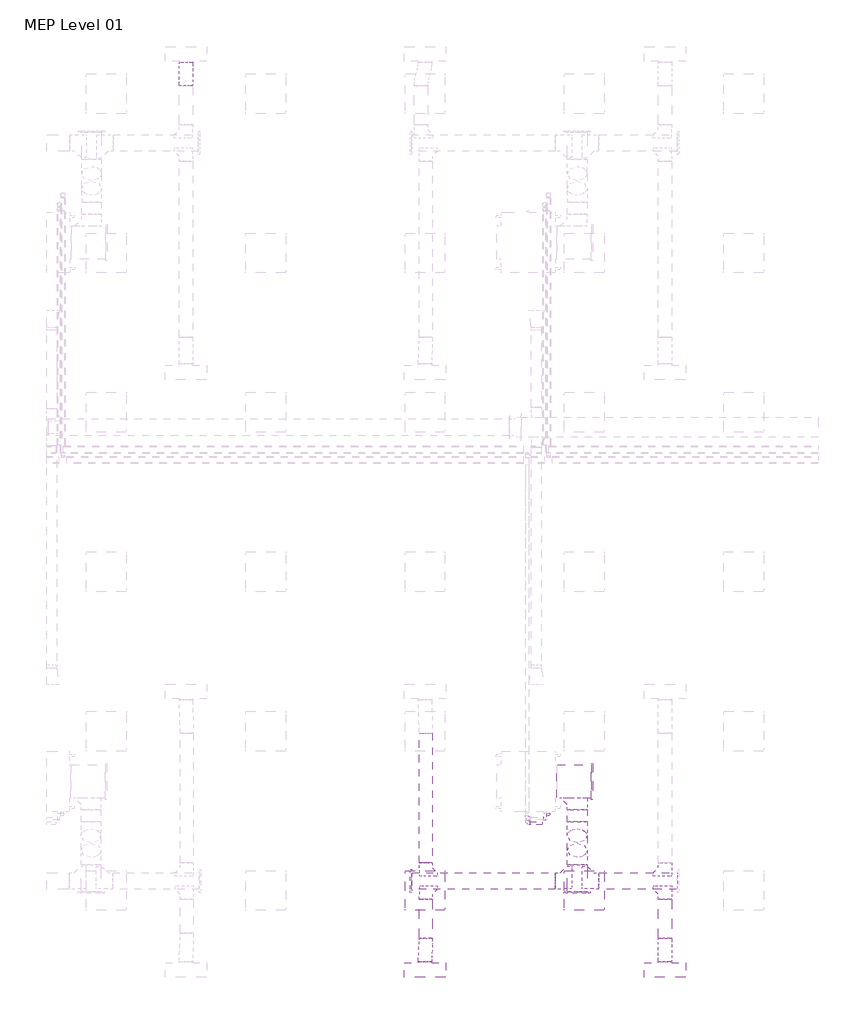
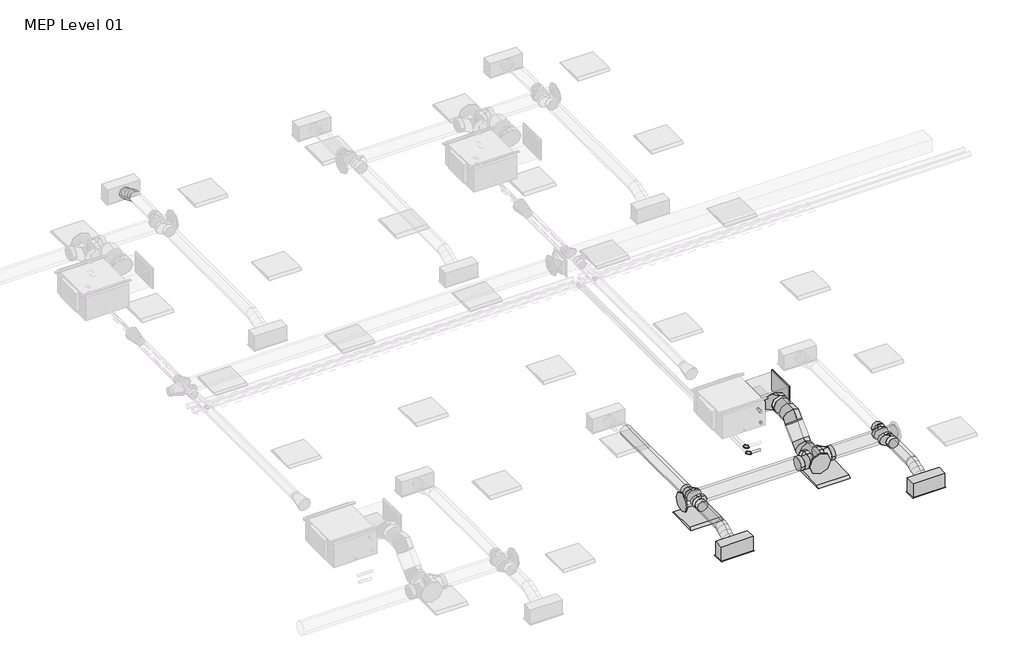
# One storey, part 6 of 29: 12 duct fittings, 12 duct segments, 3 pipe segments, 2 air terminals, 2 light fixtures, 2 pipe fittings.
"""IFC4 building model written with IfcOpenShell, lengths in millimetres."""

from ifc_helpers import new_model, si_unit, point, frame, frame_2d, origin, place, context, project, spatial, polyline, circle_curve, ellipse_curve, trimmed, segment, composite_curve, outline, extrude, transform, mapped, element, save
from ifc_brep_helpers import plane_surface, cylinder_surface, advanced_brep
from components import supply_diffuser_with_plenum_linear_slot_hosted_8c379eed, dw144_rectangular_blank_end_standard_8fde7d16, dw144_round_blank_end_standard_f82b0856, dw144_round_blank_end_standard_9aa061e7, dw144_round_segmented_bend_slip_joint_standard_8b80c5ae, dw144_round_shoe_branch_slip_joint_standard_15a2edd8, dw144_round_shoe_branch_slip_joint_standard_559552f4, dw144_round_shoe_branch_slip_joint_standard_7ba9e4ed, dw144_round_shoe_branch_slip_joint_standard_67b64720, light_fixture_600x600_230_1c7c1157, elbow_threaded_gmi_standard_b4aa7741

model = new_model("IFC4")

# Units and contexts
model_context = context("Model", 3, world=origin())
ifc_project = project(units=[si_unit("LENGTHUNIT", "METRE", prefix="MILLI")], contexts=[model_context])

# Site, building, storey
site = spatial("IfcSite", under=ifc_project)
building = spatial("IfcBuilding", under=site)
storey = spatial("IfcBuildingStorey", under=building, Name="MEP Level 01", Elevation=3900.0)

# Air terminals
placement = place(None, origin())
supply_diffuser_with_plenum_linear_slot_hosted_shape = supply_diffuser_with_plenum_linear_slot_hosted_8c379eed(model_context)
element("IfcAirTerminal", 1, ObjectType="Supply Diffuser with Plenum - Linear Slot - Hosted : 600mmx193.8mm-200 In Inlet  4-Slot", at=placement, inside=storey, context=model_context, shape_type="MappedRepresentation", body=[
    mapped(supply_diffuser_with_plenum_linear_slot_hosted_shape, transform((16362.2000027, 963.2000004, 6700.0), x_axis=(1.0, 0.0, 0.0), y_axis=(0.0, -1.0, 0.0), z_axis=(0.0, 0.0, -1.0))),
])
element("IfcAirTerminal", 2, ObjectType="Supply Diffuser with Plenum - Linear Slot - Hosted : 600mmx193.8mm-200 In Inlet  4-Slot", at=placement, inside=storey, context=model_context, shape_type="MappedRepresentation", body=[
    mapped(supply_diffuser_with_plenum_linear_slot_hosted_shape, transform((19973.9000022, 963.2000004, 6700.0), x_axis=(1.0, 0.0, 0.0), y_axis=(0.0, -1.0, 0.0), z_axis=(0.0, 0.0, -1.0))),
])

# Duct fittings
dw144_rectangular_blank_end_standard_shape = dw144_rectangular_blank_end_standard_8fde7d16(model_context)
element("IfcDuctFitting", 3, ObjectType="DW144 Rectangular Blank End : Standard", at=placement, inside=storey, context=model_context, shape_type="MappedRepresentation", body=[
    mapped(dw144_rectangular_blank_end_standard_shape, transform((18866.2561025, 3806.0000004, 7376.3911538), x_axis=(1.0, 0.0, 0.0), y_axis=(0.0, 1.0, 0.0), z_axis=(0.0, 0.0, 1.0))),
])
dw144_round_blank_end_standard_shape = dw144_round_blank_end_standard_f82b0856(model_context)
element("IfcDuctFitting", 4, ObjectType="DW144 Round Blank End : Standard", at=placement, inside=storey, context=model_context, shape_type="MappedRepresentation", body=[
    mapped(dw144_round_blank_end_standard_shape, transform((18651.4561025, 2142.9916128, 6972.2088531), x_axis=(0.0, -1.0, 0.0), y_axis=(1.0, 0.0, 0.0), z_axis=(0.0, 0.0, 1.0))),
])
dw144_round_blank_end_standard_2_shape = dw144_round_blank_end_standard_9aa061e7(model_context)
element("IfcDuctFitting", 5, ObjectType="DW144 Round Blank End : Standard", at=placement, inside=storey, context=model_context, shape_type="MappedRepresentation", body=[
    mapped(dw144_round_blank_end_standard_2_shape, transform((16161.4561025, 2306.5018192, 6972.2088531), x_axis=(-1.0, 0.0, 0.0), y_axis=(0.0, -1.0, 0.0), z_axis=(0.0, 0.0, 1.0))),
])
dw144_round_segmented_bend_slip_joint_standard_shape = dw144_round_segmented_bend_slip_joint_standard_8b80c5ae(model_context)
element("IfcDuctFitting", 6, ObjectType="DW144 Round Segmented Bend - Slip Joint : Standard", at=placement, inside=storey, context=model_context, shape_type="MappedRepresentation", body=[
    mapped(dw144_round_segmented_bend_slip_joint_standard_shape, transform((18651.4561025, 2678.6338536, 6972.2088531), x_axis=(0.0, -0.7071067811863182, -0.7071067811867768), y_axis=(0.0, 0.7071067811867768, -0.7071067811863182), z_axis=(1.0, 0.0, 0.0))),
])
element("IfcDuctFitting", 7, ObjectType="DW144 Round Segmented Bend - Slip Joint : Standard", at=placement, inside=storey, context=model_context, shape_type="MappedRepresentation", body=[
    mapped(dw144_round_segmented_bend_slip_joint_standard_shape, transform((18651.4561025, 3076.0000004, 7369.575), x_axis=(0.0, -1.0, 0.0), y_axis=(0.0, 0.0, 1.0), z_axis=(-1.0, 0.0, 0.0))),
])
dw144_round_shoe_branch_slip_joint_standard_shape = dw144_round_shoe_branch_slip_joint_standard_15a2edd8(model_context)
element("IfcDuctFitting", 8, ObjectType="DW144 Round Shoe Branch - Slip Joint : Standard", at=placement, inside=storey, context=model_context, shape_type="MappedRepresentation", body=[
    mapped(dw144_round_shoe_branch_slip_joint_standard_shape, transform((16373.9000022, 2181.5018192, 6972.2088531), x_axis=(0.0, -1.0, 0.0), y_axis=(-1.0, 0.0, 0.0), z_axis=(0.0, 0.0, -1.0))),
])
element("IfcDuctFitting", 9, ObjectType="DW144 Round Shoe Branch - Slip Joint : Standard", at=placement, inside=storey, context=model_context, shape_type="MappedRepresentation", body=[
    mapped(dw144_round_shoe_branch_slip_joint_standard_shape, transform((16373.9000022, 2431.5018192, 6972.2088531), x_axis=(0.0, 1.0, 0.0), y_axis=(-1.0, 0.0, 0.0), z_axis=(0.0, 0.0, 1.0))),
])
dw144_round_shoe_branch_slip_joint_standard_2_shape = dw144_round_shoe_branch_slip_joint_standard_559552f4(model_context)
element("IfcDuctFitting", 10, ObjectType="DW144 Round Shoe Branch - Slip Joint : Standard", at=placement, inside=storey, context=model_context, shape_type="MappedRepresentation", body=[
    mapped(dw144_round_shoe_branch_slip_joint_standard_2_shape, transform((19973.9000022, 2181.5018192, 6972.2088531), x_axis=(0.0, -1.0, 0.0), y_axis=(-1.0, 0.0, 0.0), z_axis=(0.0, 0.0, -1.0))),
])
element("IfcDuctFitting", 11, ObjectType="DW144 Round Shoe Branch - Slip Joint : Standard", at=placement, inside=storey, context=model_context, shape_type="MappedRepresentation", body=[
    mapped(dw144_round_shoe_branch_slip_joint_standard_2_shape, transform((19973.9000022, 2431.5018192, 6972.2088531), x_axis=(0.0, 1.0, 0.0), y_axis=(-1.0, 0.0, 0.0), z_axis=(0.0, 0.0, 1.0))),
])
dw144_round_shoe_branch_slip_joint_standard_3_shape = dw144_round_shoe_branch_slip_joint_standard_7ba9e4ed(model_context)
element("IfcDuctFitting", 12, ObjectType="DW144 Round Shoe Branch - Slip Joint : Standard", at=placement, inside=storey, context=model_context, shape_type="MappedRepresentation", body=[
    mapped(dw144_round_shoe_branch_slip_joint_standard_3_shape, transform((18651.4561025, 3556.0000004, 7369.575), x_axis=(0.0, -1.0, 0.0), y_axis=(-1.0, 0.0, 0.0), z_axis=(0.0, 0.0, -1.0))),
])
dw144_round_shoe_branch_slip_joint_standard_4_shape = dw144_round_shoe_branch_slip_joint_standard_67b64720(model_context)
element("IfcDuctFitting", 13, ObjectType="DW144 Round Shoe Branch - Slip Joint : Standard", at=placement, inside=storey, context=model_context, shape_type="MappedRepresentation", body=[
    mapped(dw144_round_shoe_branch_slip_joint_standard_4_shape, transform((18801.4561025, 2306.5018192, 6972.2088531), x_axis=(1.0, 0.0, 0.0), y_axis=(0.0, -1.0, 0.0), z_axis=(0.0, 0.0, -1.0))),
])
element("IfcDuctFitting", 14, ObjectType="DW144 Round Shoe Branch - Slip Joint : Standard", at=placement, inside=storey, context=model_context, shape_type="MappedRepresentation", body=[
    mapped(dw144_round_shoe_branch_slip_joint_standard_4_shape, transform((18501.4561025, 2306.5018192, 6972.2088531), x_axis=(-1.0, 0.0, 0.0), y_axis=(0.0, -1.0, 0.0), z_axis=(0.0, 0.0, 1.0))),
])

# Duct segments
element("IfcDuctSegment", 15, ObjectType="DW144 Flanged Med Radius Bend / Shoe Branch", at=placement, inside=storey, context=model_context, shape_type="SweptSolid", body=[
    extrude(outline(polyline([(18346.6561025, 3556.0000004), (18346.6561025, 4056.0000004), (18866.2561025, 4056.0000004), (18866.2561025, 3556.0000004), (18346.6561025, 3556.0000004)])), frame((0.0, 0.0, 7201.3911538), z_axis=(0.0, 0.0, 1.0), x_axis=(1.0, 0.0, 0.0)), (0.0, 0.0, 1.0), 350.0),
])
element("IfcDuctSegment", 16, ObjectType="DW144 Segmented Bend / Shoe Branch", at=placement, inside=storey, context=model_context, shape_type="SweptSolid", body=[
    extrude(outline(composite_curve([segment(trimmed(circle_curve(frame_2d((7369.575, 18651.4561025)), 150.0), [point((7369.575, 18501.4561025))], [point((7219.575, 18651.4561025))], False, "CARTESIAN"), True, "CONTINUOUS"), segment(trimmed(circle_curve(frame_2d((7369.575, 18651.4561025)), 150.0), [point((7219.575, 18651.4561025))], [point((7369.575, 18801.4561025))], False, "CARTESIAN"), True, "CONTINUOUS"), segment(trimmed(circle_curve(frame_2d((7369.575, 18651.4561025)), 150.0), [point((7369.575, 18801.4561025))], [point((7519.575, 18651.4561025))], False, "CARTESIAN"), True, "CONTINUOUS"), segment(trimmed(circle_curve(frame_2d((7369.575, 18651.4561025)), 150.0), [point((7519.575, 18651.4561025))], [point((7369.575, 18501.4561025))], False, "CARTESIAN"), True, "CONTINUOUS")], self_intersect=False)), frame((0.0, 3200.2640691, 0.0), z_axis=(0.0, 1.0, 0.0), x_axis=(0.0, 0.0, 1.0)), (0.0, 0.0, 1.0), 180.7359313),
])
element("IfcDuctSegment", 17, ObjectType="DW144 Segmented Bend / Shoe Branch", at=placement, inside=storey, context=model_context, shape_type="SweptSolid", body=[
    extrude(outline(composite_curve([segment(trimmed(circle_curve(frame_2d((6972.2088531, 18651.4561025)), 150.0), [point((6972.2088531, 18501.4561025))], [point((6822.2088531, 18651.4561025))], False, "CARTESIAN"), True, "CONTINUOUS"), segment(trimmed(circle_curve(frame_2d((6972.2088531, 18651.4561025)), 150.0), [point((6822.2088531, 18651.4561025))], [point((6972.2088531, 18801.4561025))], False, "CARTESIAN"), True, "CONTINUOUS"), segment(trimmed(circle_curve(frame_2d((6972.2088531, 18651.4561025)), 150.0), [point((6972.2088531, 18801.4561025))], [point((7122.2088531, 18651.4561025))], False, "CARTESIAN"), True, "CONTINUOUS"), segment(trimmed(circle_curve(frame_2d((6972.2088531, 18651.4561025)), 150.0), [point((7122.2088531, 18651.4561025))], [point((6972.2088531, 18501.4561025))], False, "CARTESIAN"), True, "CONTINUOUS")], self_intersect=False)), frame((0.0, 2142.9916128, 0.0), z_axis=(0.0, 1.0, 0.0), x_axis=(0.0, 0.0, 1.0)), (0.0, 0.0, 1.0), 411.3781721),
])
element("IfcDuctSegment", 18, ObjectType="DW144 Segmented Bend / Shoe Branch", at=placement, inside=storey, context=model_context, shape_type="SweptSolid", body=[
    extrude(outline(composite_curve([segment(trimmed(circle_curve(frame_2d((0.0, -150.0)), 150.0), [point((-150.0, -150.0))], [point((0.0, 0.0))], False, "CARTESIAN"), True, "CONTINUOUS"), segment(trimmed(circle_curve(frame_2d((0.0, -150.0)), 150.0), [point((0.0, 0.0))], [point((150.0, -150.0))], False, "CARTESIAN"), True, "CONTINUOUS"), segment(trimmed(circle_curve(frame_2d((0.0, -150.0)), 150.0), [point((150.0, -150.0))], [point((0.0, -300.0))], False, "CARTESIAN"), True, "CONTINUOUS"), segment(trimmed(circle_curve(frame_2d((0.0, -150.0)), 150.0), [point((0.0, -300.0))], [point((-150.0, -150.0))], False, "CARTESIAN"), True, "CONTINUOUS")], self_intersect=False)), frame((18651.4561025, 2872.5678364, 6954.0108016), z_axis=(0.0, 0.7071067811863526, 0.7071067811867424), x_axis=(1.0, 0.0, 0.0)), (0.0, 0.0, 1.0), 313.4324567),
])
element("IfcDuctSegment", 19, ObjectType="DW144 Segmented Bend / Shoe Branch", at=placement, inside=storey, context=model_context, shape_type="SweptSolid", body=[
    extrude(outline(composite_curve([segment(trimmed(circle_curve(frame_2d((2306.5018192, 6972.2088531)), 125.0), [point((2181.5018192, 6972.2088531))], [point((2306.5018192, 7097.2088531))], False, "CARTESIAN"), True, "CONTINUOUS"), segment(trimmed(circle_curve(frame_2d((2306.5018192, 6972.2088531)), 125.0), [point((2306.5018192, 7097.2088531))], [point((2431.5018192, 6972.2088531))], False, "CARTESIAN"), True, "CONTINUOUS"), segment(trimmed(circle_curve(frame_2d((2306.5018192, 6972.2088531)), 125.0), [point((2431.5018192, 6972.2088531))], [point((2306.5018192, 6847.2088531))], False, "CARTESIAN"), True, "CONTINUOUS"), segment(trimmed(circle_curve(frame_2d((2306.5018192, 6972.2088531)), 125.0), [point((2306.5018192, 6847.2088531))], [point((2181.5018192, 6972.2088531))], False, "CARTESIAN"), True, "CONTINUOUS")], self_intersect=False)), frame((18976.4561025, 0.0, 0.0), z_axis=(1.0, 0.0, 0.0), x_axis=(0.0, 1.0, 0.0)), (0.0, 0.0, 1.0), 1185.0),
])
element("IfcDuctSegment", 20, ObjectType="DW144 Segmented Bend / Shoe Branch", at=placement, inside=storey, context=model_context, shape_type="SweptSolid", body=[
    extrude(outline(composite_curve([segment(trimmed(circle_curve(frame_2d((2306.5018192, 6972.2088531)), 125.0), [point((2431.5018192, 6972.2088531))], [point((2306.5018192, 6847.2088531))], False, "CARTESIAN"), True, "CONTINUOUS"), segment(trimmed(circle_curve(frame_2d((2306.5018192, 6972.2088531)), 125.0), [point((2306.5018192, 6847.2088531))], [point((2181.5018192, 6972.2088531))], False, "CARTESIAN"), True, "CONTINUOUS"), segment(trimmed(circle_curve(frame_2d((2306.5018192, 6972.2088531)), 125.0), [point((2181.5018192, 6972.2088531))], [point((2306.5018192, 7097.2088531))], False, "CARTESIAN"), True, "CONTINUOUS"), segment(trimmed(circle_curve(frame_2d((2306.5018192, 6972.2088531)), 125.0), [point((2306.5018192, 7097.2088531))], [point((2431.5018192, 6972.2088531))], False, "CARTESIAN"), True, "CONTINUOUS")], self_intersect=False)), frame((16161.4561025, 0.0, 0.0), z_axis=(1.0, 0.0, 0.0), x_axis=(0.0, 1.0, 0.0)), (0.0, 0.0, 1.0), 2165.0),
])
element("IfcDuctSegment", 21, ObjectType="DW144 Segmented Bend / Shoe Branch", at=placement, inside=storey, context=model_context, shape_type="SweptSolid", body=[
    extrude(outline(composite_curve([segment(trimmed(circle_curve(frame_2d((6972.2088531, 19973.9000022)), 100.0), [point((6972.2088531, 19873.9000022))], [point((6872.2088531, 19973.9000022))], False, "CARTESIAN"), True, "CONTINUOUS"), segment(trimmed(circle_curve(frame_2d((6972.2088531, 19973.9000022)), 100.0), [point((6872.2088531, 19973.9000022))], [point((6972.2088531, 20073.9000022))], False, "CARTESIAN"), True, "CONTINUOUS"), segment(trimmed(circle_curve(frame_2d((6972.2088531, 19973.9000022)), 100.0), [point((6972.2088531, 20073.9000022))], [point((7072.2088531, 19973.9000022))], False, "CARTESIAN"), True, "CONTINUOUS"), segment(trimmed(circle_curve(frame_2d((6972.2088531, 19973.9000022)), 100.0), [point((7072.2088531, 19973.9000022))], [point((6972.2088531, 19873.9000022))], False, "CARTESIAN"), True, "CONTINUOUS")], self_intersect=False)), frame((0.0, 1441.5018192, 0.0), z_axis=(0.0, 1.0, 0.0), x_axis=(0.0, 0.0, 1.0)), (0.0, 0.0, 1.0), 590.0),
])
element("IfcDuctSegment", 22, ObjectType="DW144 Segmented Bend / Shoe Branch", at=placement, inside=storey, context=model_context, shape_type="SweptSolid", body=[
    extrude(outline(composite_curve([segment(trimmed(circle_curve(frame_2d((6972.2088531, 16373.9000022)), 100.0), [point((6972.2088531, 16473.9000022))], [point((7072.2088531, 16373.9000022))], False, "CARTESIAN"), True, "CONTINUOUS"), segment(trimmed(circle_curve(frame_2d((6972.2088531, 16373.9000022)), 100.0), [point((7072.2088531, 16373.9000022))], [point((6972.2088531, 16273.9000022))], False, "CARTESIAN"), True, "CONTINUOUS"), segment(trimmed(circle_curve(frame_2d((6972.2088531, 16373.9000022)), 100.0), [point((6972.2088531, 16273.9000022))], [point((6872.2088531, 16373.9000022))], False, "CARTESIAN"), True, "CONTINUOUS"), segment(trimmed(circle_curve(frame_2d((6972.2088531, 16373.9000022)), 100.0), [point((6872.2088531, 16373.9000022))], [point((6972.2088531, 16473.9000022))], False, "CARTESIAN"), True, "CONTINUOUS")], self_intersect=False)), frame((0.0, 1441.5018192, 0.0), z_axis=(0.0, 1.0, 0.0), x_axis=(0.0, 0.0, 1.0)), (0.0, 0.0, 1.0), 590.0),
])
element("IfcDuctSegment", 23, ObjectType="DW144 Segmented Bend / Shoe Branch", at=placement, inside=storey, context=model_context, shape_type="SweptSolid", body=[
    extrude(outline(composite_curve([segment(trimmed(circle_curve(frame_2d((6972.2088531, 16373.9000022)), 100.0), [point((6972.2088531, 16473.9000022))], [point((7072.2088531, 16373.9000022))], False, "CARTESIAN"), True, "CONTINUOUS"), segment(trimmed(circle_curve(frame_2d((6972.2088531, 16373.9000022)), 100.0), [point((7072.2088531, 16373.9000022))], [point((6972.2088531, 16273.9000022))], False, "CARTESIAN"), True, "CONTINUOUS"), segment(trimmed(circle_curve(frame_2d((6972.2088531, 16373.9000022)), 100.0), [point((6972.2088531, 16273.9000022))], [point((6872.2088531, 16373.9000022))], False, "CARTESIAN"), True, "CONTINUOUS"), segment(trimmed(circle_curve(frame_2d((6972.2088531, 16373.9000022)), 100.0), [point((6872.2088531, 16373.9000022))], [point((6972.2088531, 16473.9000022))], False, "CARTESIAN"), True, "CONTINUOUS")], self_intersect=False)), frame((0.0, 2581.5018192, 0.0), z_axis=(0.0, 1.0, 0.0), x_axis=(0.0, 0.0, 1.0)), (0.0, 0.0, 1.0), 1950.0),
])
element("IfcDuctSegment", 24, ObjectType="Flex - Round", at=placement, inside=storey, context=model_context, shape_type="AdvancedBrep", body=[
    advanced_brep(
    [(12662.2000027, 14284.8981817, 6972.2088531), (12762.2000027, 14284.8981817, 6872.2088531), (12862.2000027, 14284.8981817, 6972.2088531), (12762.2000027, 14284.8981817, 7072.2088531), (12662.2000027, 14305.1168804, 6972.2088531), (12762.2000027, 14291.9969011, 6872.2088531), (12862.2000027, 14305.1168804, 6972.2088531), (12762.2000027, 14318.2368598, 7072.2088531), (12662.2000027, 14634.3000004, 6854.4), (12762.2000027, 14634.3000004, 6954.4), (12862.2000027, 14634.3000004, 6854.4), (12762.2000027, 14634.3000004, 6754.4), (12662.2000027, 14374.0604937, 6953.8012198), (12762.2000027, 14339.4842635, 6859.5299419), (12862.2000027, 14374.0604937, 6953.8012198), (12762.2000027, 14408.6367238, 7048.0724978), (12662.2000027, 14459.599091, 6913.3044266), (12762.2000027, 14416.809003, 6822.9218599), (12862.2000027, 14459.599091, 6913.3044266), (12762.2000027, 14502.3891791, 7003.6869932), (12662.2000027, 14545.1376884, 6872.8076333), (12762.2000027, 14510.5614583, 6778.5363553), (12862.2000027, 14545.1376884, 6872.8076333), (12762.2000027, 14579.7139186, 6967.0789113), (12662.2000027, 14614.0813017, 6854.4), (12762.2000027, 14600.9613223, 6754.4), (12862.2000027, 14614.0813017, 6854.4), (12762.2000027, 14627.201281, 6954.4)],
    [
        (0, 1, circle_curve(frame((12762.2000027, 14284.8981817, 6972.2088531), z_axis=(0.0, -1.0, 0.0), x_axis=(-1.0, 0.0, 0.0)), 100.0)),
        (1, 2, circle_curve(frame((12762.2000027, 14284.8981817, 6972.2088531), z_axis=(0.0, -1.0, 0.0), x_axis=(-1.0, 0.0, 0.0)), 100.0)),
        (2, 3, circle_curve(frame((12762.2000027, 14284.8981817, 6972.2088531), z_axis=(0.0, -1.0, 0.0), x_axis=(-1.0, 0.0, 0.0)), 100.0)),
        (3, 0, circle_curve(frame((12762.2000027, 14284.8981817, 6972.2088531), z_axis=(0.0, -1.0, 0.0), x_axis=(-1.0, 0.0, 0.0)), 100.0)),
        (0, 4),
        (4, 5, ellipse_curve(frame((12762.2000027, 14305.1168804, 6972.2088531), z_axis=(0.0, -0.9915028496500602, 0.1300849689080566), x_axis=(0.0, -0.13008496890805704, -0.9915028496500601)), 100.8569971, 100.0)),
        (5, 1),
        (5, 6, ellipse_curve(frame((12762.2000027, 14305.1168804, 6972.2088531), z_axis=(0.0, -0.9915028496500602, 0.1300849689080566), x_axis=(0.0, -0.13008496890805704, -0.9915028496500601)), 100.8569971, 100.0)),
        (6, 2),
        (6, 7, ellipse_curve(frame((12762.2000027, 14305.1168804, 6972.2088531), z_axis=(0.0, -0.9915028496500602, 0.1300849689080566), x_axis=(0.0, -0.13008496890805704, -0.9915028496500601)), 100.8569971, 100.0)),
        (7, 3),
        (7, 4, ellipse_curve(frame((12762.2000027, 14305.1168804, 6972.2088531), z_axis=(0.0, -0.9915028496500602, 0.1300849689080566), x_axis=(0.0, -0.13008496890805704, -0.9915028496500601)), 100.8569971, 100.0)),
        (8, 9, circle_curve(frame((12762.2000027, 14634.3000004, 6854.4), z_axis=(0.0, 1.0, 0.0), x_axis=(-1.0, 0.0, 0.0)), 100.0)),
        (9, 10, circle_curve(frame((12762.2000027, 14634.3000004, 6854.4), z_axis=(0.0, 1.0, 0.0), x_axis=(-1.0, 0.0, 0.0)), 100.0)),
        (10, 11, circle_curve(frame((12762.2000027, 14634.3000004, 6854.4), z_axis=(0.0, 1.0, 0.0), x_axis=(-1.0, 0.0, 0.0)), 100.0)),
        (11, 8, circle_curve(frame((12762.2000027, 14634.3000004, 6854.4), z_axis=(0.0, 1.0, 0.0), x_axis=(-1.0, 0.0, 0.0)), 100.0)),
        (4, 12),
        (12, 13, ellipse_curve(frame((12762.2000027, 14374.0604937, 6953.8012198), z_axis=(0.0, -0.9388438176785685, 0.3443432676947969), x_axis=(0.0, -0.34434326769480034, -0.9388438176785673)), 100.4120986, 100.0)),
        (13, 5),
        (13, 14, ellipse_curve(frame((12762.2000027, 14374.0604937, 6953.8012198), z_axis=(0.0, -0.9388438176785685, 0.3443432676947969), x_axis=(0.0, -0.34434326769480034, -0.9388438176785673)), 100.4120986, 100.0)),
        (14, 6),
        (14, 15, ellipse_curve(frame((12762.2000027, 14374.0604937, 6953.8012198), z_axis=(0.0, -0.9388438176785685, 0.3443432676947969), x_axis=(0.0, -0.34434326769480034, -0.9388438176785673)), 100.4120986, 100.0)),
        (15, 7),
        (15, 12, ellipse_curve(frame((12762.2000027, 14374.0604937, 6953.8012198), z_axis=(0.0, -0.9388438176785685, 0.3443432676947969), x_axis=(0.0, -0.34434326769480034, -0.9388438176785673)), 100.4120986, 100.0)),
        (12, 16),
        (16, 17, circle_curve(frame((12762.2000027, 14459.599091, 6913.3044266), z_axis=(0.0, -0.9038256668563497, 0.4279008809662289), x_axis=(-1.0, 0.0, 0.0)), 100.0)),
        (17, 13),
        (17, 18, circle_curve(frame((12762.2000027, 14459.599091, 6913.3044266), z_axis=(0.0, -0.9038256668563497, 0.4279008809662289), x_axis=(-1.0, 0.0, 0.0)), 100.0)),
        (18, 14),
        (18, 19, circle_curve(frame((12762.2000027, 14459.599091, 6913.3044266), z_axis=(0.0, -0.9038256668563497, 0.4279008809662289), x_axis=(-1.0, 0.0, 0.0)), 100.0)),
        (19, 15),
        (19, 16, circle_curve(frame((12762.2000027, 14459.599091, 6913.3044266), z_axis=(0.0, -0.9038256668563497, 0.4279008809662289), x_axis=(-1.0, 0.0, 0.0)), 100.0)),
        (16, 20),
        (20, 21, ellipse_curve(frame((12762.2000027, 14545.1376884, 6872.8076333), z_axis=(0.0, -0.93884381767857, 0.34434326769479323), x_axis=(0.0, 0.34434326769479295, 0.9388438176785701)), 100.4120986, 100.0)),
        (21, 17),
        (21, 22, ellipse_curve(frame((12762.2000027, 14545.1376884, 6872.8076333), z_axis=(0.0, -0.93884381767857, 0.34434326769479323), x_axis=(0.0, 0.34434326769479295, 0.9388438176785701)), 100.4120986, 100.0)),
        (22, 18),
        (22, 23, ellipse_curve(frame((12762.2000027, 14545.1376884, 6872.8076333), z_axis=(0.0, -0.93884381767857, 0.34434326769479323), x_axis=(0.0, 0.34434326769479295, 0.9388438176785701)), 100.4120986, 100.0)),
        (23, 19),
        (23, 20, ellipse_curve(frame((12762.2000027, 14545.1376884, 6872.8076333), z_axis=(0.0, -0.93884381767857, 0.34434326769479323), x_axis=(0.0, 0.34434326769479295, 0.9388438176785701)), 100.4120986, 100.0)),
        (20, 24),
        (24, 25, ellipse_curve(frame((12762.2000027, 14614.0813017, 6854.4), z_axis=(0.0, -0.9915028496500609, 0.13008496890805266), x_axis=(0.0, 0.1300849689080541, 0.9915028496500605)), 100.8569971, 100.0)),
        (25, 21),
        (25, 26, ellipse_curve(frame((12762.2000027, 14614.0813017, 6854.4), z_axis=(0.0, -0.9915028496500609, 0.13008496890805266), x_axis=(0.0, 0.1300849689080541, 0.9915028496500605)), 100.8569971, 100.0)),
        (26, 22),
        (26, 27, ellipse_curve(frame((12762.2000027, 14614.0813017, 6854.4), z_axis=(0.0, -0.9915028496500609, 0.13008496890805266), x_axis=(0.0, 0.1300849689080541, 0.9915028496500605)), 100.8569971, 100.0)),
        (27, 23),
        (27, 24, ellipse_curve(frame((12762.2000027, 14614.0813017, 6854.4), z_axis=(0.0, -0.9915028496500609, 0.13008496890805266), x_axis=(0.0, 0.1300849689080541, 0.9915028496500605)), 100.8569971, 100.0)),
        (24, 8),
        (11, 25),
        (10, 26),
        (9, 27),
    ],
    [
        plane_surface(frame((12662.2000027, 14284.8981817, 6972.2088531), z_axis=(0.0, -1.0, 0.0), x_axis=(0.0, 0.0, 1.0))),
        cylinder_surface(frame((12762.2000027, 14284.8981817, 6972.2088531), z_axis=(0.0, -1.0, 0.0), x_axis=(-1.0, 0.0, 0.0)), 100.0),
        plane_surface(frame((12662.2000027, 14634.3000004, 6854.4), z_axis=(0.0, 1.0, 0.0), x_axis=(0.0, 0.0, 1.0))),
        cylinder_surface(frame((12762.2000027, 14305.1168804, 6972.2088531), z_axis=(0.0, -0.9661558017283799, 0.2579592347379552), x_axis=(-1.0, 0.0, 0.0)), 100.0),
        cylinder_surface(frame((12762.2000027, 14374.0604937, 6953.8012198), z_axis=(0.0, -0.9038256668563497, 0.4279008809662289), x_axis=(-1.0, 0.0, 0.0)), 100.0),
        cylinder_surface(frame((12762.2000027, 14459.599091, 6913.3044266), z_axis=(0.0, -0.9038256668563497, 0.4279008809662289), x_axis=(-1.0, 0.0, 0.0)), 100.0),
        cylinder_surface(frame((12762.2000027, 14545.1376884, 6872.8076333), z_axis=(0.0, -0.966155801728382, 0.2579592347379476), x_axis=(-1.0, 0.0, 0.0)), 100.0),
        cylinder_surface(frame((12762.2000027, 14614.0813017, 6854.4), z_axis=(0.0, -1.0, 0.0), x_axis=(-1.0, 0.0, 0.0)), 100.0),
    ],
    [
        (0, [[1, 2, 3, 4]]),
        (1, [[-1, 5, 6, 7]]),
        (1, [[-2, -7, 8, 9]]),
        (1, [[-3, -9, 10, 11]]),
        (1, [[-4, -11, 12, -5]]),
        (2, [[13, 14, 15, 16]]),
        (3, [[-6, 17, 18, 19]]),
        (3, [[-8, -19, 20, 21]]),
        (3, [[-10, -21, 22, 23]]),
        (3, [[-12, -23, 24, -17]]),
        (4, [[-18, 25, 26, 27]]),
        (4, [[-20, -27, 28, 29]]),
        (4, [[-22, -29, 30, 31]]),
        (4, [[-24, -31, 32, -25]]),
        (5, [[-26, 33, 34, 35]]),
        (5, [[-28, -35, 36, 37]]),
        (5, [[-30, -37, 38, 39]]),
        (5, [[-32, -39, 40, -33]]),
        (6, [[-34, 41, 42, 43]]),
        (6, [[-36, -43, 44, 45]]),
        (6, [[-38, -45, 46, 47]]),
        (6, [[-40, -47, 48, -41]]),
        (7, [[-42, 49, -16, 50]]),
        (7, [[-44, -50, -15, 51]]),
        (7, [[-46, -51, -14, 52]]),
        (7, [[-48, -52, -13, -49]]),
    ],
),
])
element("IfcDuctSegment", 25, ObjectType="Flex - Round", at=placement, inside=storey, context=model_context, shape_type="AdvancedBrep", body=[
    advanced_brep(
    [(16473.9000022, 1441.5018192, 6972.2088531), (16373.9000022, 1441.5018192, 6872.2088531), (16273.9000022, 1441.5018192, 6972.2088531), (16373.9000022, 1441.5018192, 7072.2088531), (16473.9000022, 1419.9886644, 6972.2088531), (16373.9000022, 1434.4041273, 6872.2088531), (16273.9000022, 1422.5932881, 6972.2088531), (16373.9000022, 1408.1778252, 7072.2088531), (16462.2000027, 1092.1000004, 6854.4), (16362.2000027, 1092.1000004, 6954.4), (16262.2000027, 1092.1000004, 6854.4), (16362.2000027, 1092.1000004, 6754.4), (16472.0154345, 1348.8904029, 6953.2328893), (16372.6402079, 1386.8764181, 6859.5238159), (16272.1283201, 1355.7538157, 6954.3695504), (16371.5035467, 1317.7678004, 7048.0786237), (16467.9552415, 1262.5544078, 6912.3502664), (16369.0041626, 1309.5595036, 6822.9119919), (16268.1447633, 1271.0474118, 6914.2585867), (16367.0958423, 1224.0423161, 7003.6968612), (16463.9716847, 1177.8480039, 6872.2393027), (16364.5964582, 1215.8340192, 6778.5302294), (16264.0845704, 1184.7114168, 6873.3759639), (16363.459797, 1146.7254015, 6967.0850372), (16462.2000027, 1111.0085316, 6854.4), (16362.2000027, 1125.4239944, 6754.4), (16262.2000027, 1113.6131552, 6854.4), (16362.2000027, 1099.1976924, 6954.4)],
    [
        (0, 1, circle_curve(frame((16373.9000022, 1441.5018192, 6972.2088531), z_axis=(0.0, 1.0, 0.0), x_axis=(1.0, 0.0, 0.0)), 100.0)),
        (1, 2, circle_curve(frame((16373.9000022, 1441.5018192, 6972.2088531), z_axis=(0.0, 1.0, 0.0), x_axis=(1.0, 0.0, 0.0)), 100.0)),
        (2, 3, circle_curve(frame((16373.9000022, 1441.5018192, 6972.2088531), z_axis=(0.0, 1.0, 0.0), x_axis=(1.0, 0.0, 0.0)), 100.0)),
        (3, 0, circle_curve(frame((16373.9000022, 1441.5018192, 6972.2088531), z_axis=(0.0, 1.0, 0.0), x_axis=(1.0, 0.0, 0.0)), 100.0)),
        (0, 4),
        (4, 5, ellipse_curve(frame((16373.9000022, 1421.2909763, 6972.2088531), z_axis=(0.012911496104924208, 0.9914289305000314, 0.1300075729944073), x_axis=(-0.09798018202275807, 0.130647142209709, -0.9865754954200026)), 100.8645168, 100.0)),
        (5, 1),
        (5, 6, ellipse_curve(frame((16373.9000022, 1421.2909763, 6972.2088531), z_axis=(0.012911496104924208, 0.9914289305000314, 0.1300075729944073), x_axis=(-0.09798018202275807, 0.130647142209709, -0.9865754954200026)), 100.8645168, 100.0)),
        (6, 2),
        (6, 7, ellipse_curve(frame((16373.9000022, 1421.2909763, 6972.2088531), z_axis=(0.012911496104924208, 0.9914289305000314, 0.1300075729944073), x_axis=(-0.09798018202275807, 0.130647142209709, -0.9865754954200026)), 100.8645168, 100.0)),
        (7, 3),
        (7, 4, ellipse_curve(frame((16373.9000022, 1421.2909763, 6972.2088531), z_axis=(0.012911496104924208, 0.9914289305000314, 0.1300075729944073), x_axis=(-0.09798018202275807, 0.130647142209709, -0.9865754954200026)), 100.8645168, 100.0)),
        (8, 9, circle_curve(frame((16362.2000027, 1092.1000004, 6854.4), z_axis=(0.0, -1.0, 0.0), x_axis=(1.0, 0.0, 0.0)), 100.0)),
        (9, 10, circle_curve(frame((16362.2000027, 1092.1000004, 6854.4), z_axis=(0.0, -1.0, 0.0), x_axis=(1.0, 0.0, 0.0)), 100.0)),
        (10, 11, circle_curve(frame((16362.2000027, 1092.1000004, 6854.4), z_axis=(0.0, -1.0, 0.0), x_axis=(1.0, 0.0, 0.0)), 100.0)),
        (11, 8, circle_curve(frame((16362.2000027, 1092.1000004, 6854.4), z_axis=(0.0, -1.0, 0.0), x_axis=(1.0, 0.0, 0.0)), 100.0)),
        (4, 12),
        (12, 13, ellipse_curve(frame((16372.0718773, 1352.3221093, 6953.8012198), z_axis=(0.034174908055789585, 0.9383065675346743, 0.3441116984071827), x_axis=(-0.09273024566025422, 0.34580454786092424, -0.9337131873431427)), 100.4159667, 100.0)),
        (13, 5),
        (13, 14, ellipse_curve(frame((16372.0718773, 1352.3221093, 6953.8012198), z_axis=(0.034174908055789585, 0.9383065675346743, 0.3441116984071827), x_axis=(-0.09273024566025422, 0.34580454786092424, -0.9337131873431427)), 100.4159667, 100.0)),
        (14, 6),
        (14, 15, ellipse_curve(frame((16372.0718773, 1352.3221093, 6953.8012198), z_axis=(0.034174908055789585, 0.9383065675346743, 0.3441116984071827), x_axis=(-0.09273024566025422, 0.34580454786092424, -0.9337131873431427)), 100.4159667, 100.0)),
        (15, 7),
        (15, 12, ellipse_curve(frame((16372.0718773, 1352.3221093, 6953.8012198), z_axis=(0.034174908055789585, 0.9383065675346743, 0.3441116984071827), x_axis=(-0.09273024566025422, 0.34580454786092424, -0.9337131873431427)), 100.4159667, 100.0)),
        (12, 16),
        (16, 17, circle_curve(frame((16368.0500024, 1266.8009098, 6913.3044266), z_axis=(0.042465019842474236, 0.9029767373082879, 0.42758593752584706), x_axis=(0.9990523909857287, -0.042465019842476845, -0.009541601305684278)), 100.0)),
        (17, 13),
        (17, 18, circle_curve(frame((16368.0500024, 1266.8009098, 6913.3044266), z_axis=(0.042465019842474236, 0.9029767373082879, 0.42758593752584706), x_axis=(0.9990523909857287, -0.042465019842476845, -0.009541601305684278)), 100.0)),
        (18, 14),
        (18, 19, circle_curve(frame((16368.0500024, 1266.8009098, 6913.3044266), z_axis=(0.042465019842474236, 0.9029767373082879, 0.42758593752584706), x_axis=(0.9990523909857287, -0.042465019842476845, -0.009541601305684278)), 100.0)),
        (19, 15),
        (19, 16, circle_curve(frame((16368.0500024, 1266.8009098, 6913.3044266), z_axis=(0.042465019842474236, 0.9029767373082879, 0.42758593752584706), x_axis=(0.9990523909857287, -0.042465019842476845, -0.009541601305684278)), 100.0)),
        (16, 20),
        (20, 21, ellipse_curve(frame((16364.0281276, 1181.2797104, 6872.8076333), z_axis=(0.034174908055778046, 0.9383065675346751, 0.34411169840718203), x_axis=(0.09273024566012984, -0.3458045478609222, 0.9337131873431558)), 100.4159667, 100.0)),
        (21, 17),
        (21, 22, ellipse_curve(frame((16364.0281276, 1181.2797104, 6872.8076333), z_axis=(0.034174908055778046, 0.9383065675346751, 0.34411169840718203), x_axis=(0.09273024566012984, -0.3458045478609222, 0.9337131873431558)), 100.4159667, 100.0)),
        (22, 18),
        (22, 23, ellipse_curve(frame((16364.0281276, 1181.2797104, 6872.8076333), z_axis=(0.034174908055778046, 0.9383065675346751, 0.34411169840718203), x_axis=(0.09273024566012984, -0.3458045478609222, 0.9337131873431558)), 100.4159667, 100.0)),
        (23, 19),
        (23, 20, ellipse_curve(frame((16364.0281276, 1181.2797104, 6872.8076333), z_axis=(0.034174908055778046, 0.9383065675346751, 0.34411169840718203), x_axis=(0.09273024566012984, -0.3458045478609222, 0.9337131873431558)), 100.4159667, 100.0)),
        (20, 24),
        (24, 25, ellipse_curve(frame((16362.2000027, 1112.3108434, 6854.4), z_axis=(0.01291149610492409, 0.9914289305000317, 0.13000757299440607), x_axis=(0.09798018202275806, -0.13064714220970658, 0.9865754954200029)), 100.8645168, 100.0)),
        (25, 21),
        (25, 26, ellipse_curve(frame((16362.2000027, 1112.3108434, 6854.4), z_axis=(0.01291149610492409, 0.9914289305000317, 0.13000757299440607), x_axis=(0.09798018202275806, -0.13064714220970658, 0.9865754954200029)), 100.8645168, 100.0)),
        (26, 22),
        (26, 27, ellipse_curve(frame((16362.2000027, 1112.3108434, 6854.4), z_axis=(0.01291149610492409, 0.9914289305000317, 0.13000757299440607), x_axis=(0.09798018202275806, -0.13064714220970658, 0.9865754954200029)), 100.8645168, 100.0)),
        (27, 23),
        (27, 24, ellipse_curve(frame((16362.2000027, 1112.3108434, 6854.4), z_axis=(0.01291149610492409, 0.9914289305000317, 0.13000757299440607), x_axis=(0.09798018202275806, -0.13064714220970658, 0.9865754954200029)), 100.8645168, 100.0)),
        (24, 8),
        (11, 25),
        (10, 26),
        (9, 27),
    ],
    [
        plane_surface(frame((16273.9000022, 1441.5018192, 6972.2088531), z_axis=(0.0, 1.0, 0.0), x_axis=(0.0, 0.0, -1.0))),
        cylinder_surface(frame((16373.9000022, 1441.5018192, 6972.2088531), z_axis=(0.0, 1.0, 0.0), x_axis=(1.0, 0.0, 0.0)), 100.0),
        plane_surface(frame((16262.2000027, 1092.1000004, 6854.4), z_axis=(0.0, -1.0, 0.0), x_axis=(0.0, 0.0, -1.0))),
        cylinder_surface(frame((16373.9000022, 1421.2909763, 6972.2088531), z_axis=(0.025601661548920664, 0.9658626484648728, 0.25778653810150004), x_axis=(0.9996665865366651, -0.02560166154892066, -0.0033571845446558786)), 100.0),
        cylinder_surface(frame((16372.0718773, 1352.3221093, 6953.8012198), z_axis=(0.042465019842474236, 0.9029767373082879, 0.42758593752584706), x_axis=(0.9990523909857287, -0.042465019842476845, -0.009541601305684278)), 100.0),
        cylinder_surface(frame((16368.0500024, 1266.8009098, 6913.3044266), z_axis=(0.04246501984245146, 0.9029767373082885, 0.42758593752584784), x_axis=(0.9990523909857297, -0.04246501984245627, -0.00954160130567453)), 100.0),
        cylinder_surface(frame((16364.0281276, 1181.2797104, 6872.8076333), z_axis=(0.025601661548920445, 0.9658626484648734, 0.2577865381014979), x_axis=(0.9996665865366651, -0.025601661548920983, -0.003357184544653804)), 100.0),
        cylinder_surface(frame((16362.2000027, 1112.3108434, 6854.4), z_axis=(0.0, 1.0, 0.0), x_axis=(1.0, 0.0, 0.0)), 100.0),
    ],
    [
        (0, [[1, 2, 3, 4]]),
        (1, [[-1, 5, 6, 7]]),
        (1, [[-2, -7, 8, 9]]),
        (1, [[-3, -9, 10, 11]]),
        (1, [[-4, -11, 12, -5]]),
        (2, [[13, 14, 15, 16]]),
        (3, [[-6, 17, 18, 19]]),
        (3, [[-8, -19, 20, 21]]),
        (3, [[-10, -21, 22, 23]]),
        (3, [[-12, -23, 24, -17]]),
        (4, [[-18, 25, 26, 27]]),
        (4, [[-20, -27, 28, 29]]),
        (4, [[-22, -29, 30, 31]]),
        (4, [[-24, -31, 32, -25]]),
        (5, [[-26, 33, 34, 35]]),
        (5, [[-28, -35, 36, 37]]),
        (5, [[-30, -37, 38, 39]]),
        (5, [[-32, -39, 40, -33]]),
        (6, [[-34, 41, 42, 43]]),
        (6, [[-36, -43, 44, 45]]),
        (6, [[-38, -45, 46, 47]]),
        (6, [[-40, -47, 48, -41]]),
        (7, [[-42, 49, -16, 50]]),
        (7, [[-44, -50, -15, 51]]),
        (7, [[-46, -51, -14, 52]]),
        (7, [[-48, -52, -13, -49]]),
    ],
),
])
element("IfcDuctSegment", 26, ObjectType="Flex - Round", at=placement, inside=storey, context=model_context, shape_type="AdvancedBrep", body=[
    advanced_brep(
    [(20073.9000022, 1441.5018192, 6972.2088531), (19973.9000022, 1441.5018192, 6872.2088531), (19873.9000022, 1441.5018192, 6972.2088531), (19973.9000022, 1441.5018192, 7072.2088531), (20073.9000022, 1421.2831204, 6972.2088531), (19973.9000022, 1434.4030998, 6872.2088531), (19873.9000022, 1421.2831204, 6972.2088531), (19973.9000022, 1408.1631411, 7072.2088531), (20073.9000022, 1092.1000004, 6854.4), (19973.9000022, 1092.1000004, 6954.4), (19873.9000022, 1092.1000004, 6854.4), (19973.9000022, 1092.1000004, 6754.4), (20073.9000022, 1352.3395072, 6953.8012198), (19973.9000022, 1386.9157373, 6859.5299419), (19873.9000022, 1352.3395072, 6953.8012198), (19973.9000022, 1317.7632771, 7048.0724978), (20073.9000022, 1266.8009098, 6913.3044266), (19973.9000022, 1309.5909979, 6822.9218599), (19873.9000022, 1266.8009098, 6913.3044266), (19973.9000022, 1224.0108217, 7003.6869932), (20073.9000022, 1181.2623124, 6872.8076333), (19973.9000022, 1215.8385426, 6778.5363553), (19873.9000022, 1181.2623124, 6872.8076333), (19973.9000022, 1146.6860823, 6967.0789113), (20073.9000022, 1112.3186992, 6854.4), (19973.9000022, 1125.4386785, 6754.4), (19873.9000022, 1112.3186992, 6854.4), (19973.9000022, 1099.1987199, 6954.4)],
    [
        (0, 1, circle_curve(frame((19973.9000022, 1441.5018192, 6972.2088531), z_axis=(0.0, 1.0, 0.0), x_axis=(1.0, 0.0, 0.0)), 100.0)),
        (1, 2, circle_curve(frame((19973.9000022, 1441.5018192, 6972.2088531), z_axis=(0.0, 1.0, 0.0), x_axis=(1.0, 0.0, 0.0)), 100.0)),
        (2, 3, circle_curve(frame((19973.9000022, 1441.5018192, 6972.2088531), z_axis=(0.0, 1.0, 0.0), x_axis=(1.0, 0.0, 0.0)), 100.0)),
        (3, 0, circle_curve(frame((19973.9000022, 1441.5018192, 6972.2088531), z_axis=(0.0, 1.0, 0.0), x_axis=(1.0, 0.0, 0.0)), 100.0)),
        (0, 4),
        (4, 5, ellipse_curve(frame((19973.9000022, 1421.2831204, 6972.2088531), z_axis=(0.0, 0.9915028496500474, 0.13008496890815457), x_axis=(0.0, 0.1300849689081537, -0.9915028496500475)), 100.8569971, 100.0)),
        (5, 1),
        (5, 6, ellipse_curve(frame((19973.9000022, 1421.2831204, 6972.2088531), z_axis=(0.0, 0.9915028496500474, 0.13008496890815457), x_axis=(0.0, 0.1300849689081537, -0.9915028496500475)), 100.8569971, 100.0)),
        (6, 2),
        (6, 7, ellipse_curve(frame((19973.9000022, 1421.2831204, 6972.2088531), z_axis=(0.0, 0.9915028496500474, 0.13008496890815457), x_axis=(0.0, 0.1300849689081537, -0.9915028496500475)), 100.8569971, 100.0)),
        (7, 3),
        (7, 4, ellipse_curve(frame((19973.9000022, 1421.2831204, 6972.2088531), z_axis=(0.0, 0.9915028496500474, 0.13008496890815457), x_axis=(0.0, 0.1300849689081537, -0.9915028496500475)), 100.8569971, 100.0)),
        (8, 9, circle_curve(frame((19973.9000022, 1092.1000004, 6854.4), z_axis=(0.0, -1.0, 0.0), x_axis=(1.0, 0.0, 0.0)), 100.0)),
        (9, 10, circle_curve(frame((19973.9000022, 1092.1000004, 6854.4), z_axis=(0.0, -1.0, 0.0), x_axis=(1.0, 0.0, 0.0)), 100.0)),
        (10, 11, circle_curve(frame((19973.9000022, 1092.1000004, 6854.4), z_axis=(0.0, -1.0, 0.0), x_axis=(1.0, 0.0, 0.0)), 100.0)),
        (11, 8, circle_curve(frame((19973.9000022, 1092.1000004, 6854.4), z_axis=(0.0, -1.0, 0.0), x_axis=(1.0, 0.0, 0.0)), 100.0)),
        (4, 12),
        (12, 13, ellipse_curve(frame((19973.9000022, 1352.3395072, 6953.8012198), z_axis=(0.0, 0.9388438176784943, 0.3443432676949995), x_axis=(0.0, 0.3443432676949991, -0.9388438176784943)), 100.4120986, 100.0)),
        (13, 5),
        (13, 14, ellipse_curve(frame((19973.9000022, 1352.3395072, 6953.8012198), z_axis=(0.0, 0.9388438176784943, 0.3443432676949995), x_axis=(0.0, 0.3443432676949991, -0.9388438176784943)), 100.4120986, 100.0)),
        (14, 6),
        (14, 15, ellipse_curve(frame((19973.9000022, 1352.3395072, 6953.8012198), z_axis=(0.0, 0.9388438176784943, 0.3443432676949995), x_axis=(0.0, 0.3443432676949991, -0.9388438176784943)), 100.4120986, 100.0)),
        (15, 7),
        (15, 12, ellipse_curve(frame((19973.9000022, 1352.3395072, 6953.8012198), z_axis=(0.0, 0.9388438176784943, 0.3443432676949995), x_axis=(0.0, 0.3443432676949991, -0.9388438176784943)), 100.4120986, 100.0)),
        (12, 16),
        (16, 17, circle_curve(frame((19973.9000022, 1266.8009098, 6913.3044266), z_axis=(0.0, 0.9038256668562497, 0.4279008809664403), x_axis=(1.0, 0.0, 0.0)), 100.0)),
        (17, 13),
        (17, 18, circle_curve(frame((19973.9000022, 1266.8009098, 6913.3044266), z_axis=(0.0, 0.9038256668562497, 0.4279008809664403), x_axis=(1.0, 0.0, 0.0)), 100.0)),
        (18, 14),
        (18, 19, circle_curve(frame((19973.9000022, 1266.8009098, 6913.3044266), z_axis=(0.0, 0.9038256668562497, 0.4279008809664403), x_axis=(1.0, 0.0, 0.0)), 100.0)),
        (19, 15),
        (19, 16, circle_curve(frame((19973.9000022, 1266.8009098, 6913.3044266), z_axis=(0.0, 0.9038256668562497, 0.4279008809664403), x_axis=(1.0, 0.0, 0.0)), 100.0)),
        (16, 20),
        (20, 21, ellipse_curve(frame((19973.9000022, 1181.2623124, 6872.8076333), z_axis=(0.0, 0.9388438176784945, 0.34434326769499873), x_axis=(0.0, -0.3443432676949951, 0.9388438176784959)), 100.4120986, 100.0)),
        (21, 17),
        (21, 22, ellipse_curve(frame((19973.9000022, 1181.2623124, 6872.8076333), z_axis=(0.0, 0.9388438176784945, 0.34434326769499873), x_axis=(0.0, -0.3443432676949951, 0.9388438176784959)), 100.4120986, 100.0)),
        (22, 18),
        (22, 23, ellipse_curve(frame((19973.9000022, 1181.2623124, 6872.8076333), z_axis=(0.0, 0.9388438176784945, 0.34434326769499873), x_axis=(0.0, -0.3443432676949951, 0.9388438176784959)), 100.4120986, 100.0)),
        (23, 19),
        (23, 20, ellipse_curve(frame((19973.9000022, 1181.2623124, 6872.8076333), z_axis=(0.0, 0.9388438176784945, 0.34434326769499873), x_axis=(0.0, -0.3443432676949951, 0.9388438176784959)), 100.4120986, 100.0)),
        (20, 24),
        (24, 25, ellipse_curve(frame((19973.9000022, 1112.3186992, 6854.4), z_axis=(0.0, 0.9915028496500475, 0.13008496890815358), x_axis=(0.0, -0.13008496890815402, 0.9915028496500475)), 100.8569971, 100.0)),
        (25, 21),
        (25, 26, ellipse_curve(frame((19973.9000022, 1112.3186992, 6854.4), z_axis=(0.0, 0.9915028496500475, 0.13008496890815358), x_axis=(0.0, -0.13008496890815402, 0.9915028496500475)), 100.8569971, 100.0)),
        (26, 22),
        (26, 27, ellipse_curve(frame((19973.9000022, 1112.3186992, 6854.4), z_axis=(0.0, 0.9915028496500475, 0.13008496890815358), x_axis=(0.0, -0.13008496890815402, 0.9915028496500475)), 100.8569971, 100.0)),
        (27, 23),
        (27, 24, ellipse_curve(frame((19973.9000022, 1112.3186992, 6854.4), z_axis=(0.0, 0.9915028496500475, 0.13008496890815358), x_axis=(0.0, -0.13008496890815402, 0.9915028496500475)), 100.8569971, 100.0)),
        (24, 8),
        (11, 25),
        (10, 26),
        (9, 27),
    ],
    [
        plane_surface(frame((19873.9000022, 1441.5018192, 6972.2088531), z_axis=(0.0, 1.0, 0.0), x_axis=(0.0, 0.0, -1.0))),
        cylinder_surface(frame((19973.9000022, 1441.5018192, 6972.2088531), z_axis=(0.0, 1.0, 0.0), x_axis=(1.0, 0.0, 0.0)), 100.0),
        plane_surface(frame((19873.9000022, 1092.1000004, 6854.4), z_axis=(0.0, -1.0, 0.0), x_axis=(0.0, 0.0, -1.0))),
        cylinder_surface(frame((19973.9000022, 1421.2831204, 6972.2088531), z_axis=(0.0, 0.9661558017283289, 0.25795923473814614), x_axis=(1.0, 0.0, 0.0)), 100.0),
        cylinder_surface(frame((19973.9000022, 1352.3395072, 6953.8012198), z_axis=(0.0, 0.9038256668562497, 0.4279008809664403), x_axis=(1.0, 0.0, 0.0)), 100.0),
        cylinder_surface(frame((19973.9000022, 1266.8009098, 6913.3044266), z_axis=(0.0, 0.9038256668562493, 0.4279008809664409), x_axis=(1.0, 0.0, 0.0)), 100.0),
        cylinder_surface(frame((19973.9000022, 1181.2623124, 6872.8076333), z_axis=(0.0, 0.9661558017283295, 0.25795923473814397), x_axis=(1.0, 0.0, 0.0)), 100.0),
        cylinder_surface(frame((19973.9000022, 1112.3186992, 6854.4), z_axis=(0.0, 1.0, 0.0), x_axis=(1.0, 0.0, 0.0)), 100.0),
    ],
    [
        (0, [[1, 2, 3, 4]]),
        (1, [[-1, 5, 6, 7]]),
        (1, [[-2, -7, 8, 9]]),
        (1, [[-3, -9, 10, 11]]),
        (1, [[-4, -11, 12, -5]]),
        (2, [[13, 14, 15, 16]]),
        (3, [[-6, 17, 18, 19]]),
        (3, [[-8, -19, 20, 21]]),
        (3, [[-10, -21, 22, 23]]),
        (3, [[-12, -23, 24, -17]]),
        (4, [[-18, 25, 26, 27]]),
        (4, [[-20, -27, 28, 29]]),
        (4, [[-22, -29, 30, 31]]),
        (4, [[-24, -31, 32, -25]]),
        (5, [[-26, 33, 34, 35]]),
        (5, [[-28, -35, 36, 37]]),
        (5, [[-30, -37, 38, 39]]),
        (5, [[-32, -39, 40, -33]]),
        (6, [[-34, 41, 42, 43]]),
        (6, [[-36, -43, 44, 45]]),
        (6, [[-38, -45, 46, 47]]),
        (6, [[-40, -47, 48, -41]]),
        (7, [[-42, 49, -16, 50]]),
        (7, [[-44, -50, -15, 51]]),
        (7, [[-46, -51, -14, 52]]),
        (7, [[-48, -52, -13, -49]]),
    ],
),
])

# Light fixtures
light_fixture_600x600_230_shape = light_fixture_600x600_230_1c7c1157(model_context)
element("IfcLightFixture", 27, ObjectType="ELEKTRA Recessed Lighting Fixture : 600x600 - 230", at=placement, inside=storey, context=model_context, shape_type="MappedRepresentation", body=[
    mapped(light_fixture_600x600_230_shape, transform((16062.2000027, 1863.2000003, 6700.0), x_axis=(1.0, 0.0, 0.0), y_axis=(0.0, -1.0, 0.0), z_axis=(0.0, 0.0, -1.0))),
])
element("IfcLightFixture", 28, ObjectType="ELEKTRA Recessed Lighting Fixture : 600x600 - 230", at=placement, inside=storey, context=model_context, shape_type="MappedRepresentation", body=[
    mapped(light_fixture_600x600_230_shape, transform((18462.2000027, 1863.2000003, 6700.0), x_axis=(1.0, 0.0, 0.0), y_axis=(0.0, -1.0, 0.0), z_axis=(0.0, 0.0, -1.0))),
])

# Pipe fittings
elbow_threaded_gmi_standard_shape = elbow_threaded_gmi_standard_b4aa7741(model_context)
element("IfcPipeFitting", 29, ObjectType="Elbow - Threaded - GMI : Standard", at=placement, inside=storey, context=model_context, shape_type="MappedRepresentation", body=[
    mapped(elbow_threaded_gmi_standard_shape, transform((17903.0774681, 3177.232951, 6793.9343179), x_axis=(0.0, -1.0, 0.0), y_axis=(1.0, 0.0, 0.0), z_axis=(0.0, 0.0, 1.0))),
])
element("IfcPipeFitting", 30, ObjectType="Elbow - Threaded - GMI : Standard", at=placement, inside=storey, context=model_context, shape_type="MappedRepresentation", body=[
    mapped(elbow_threaded_gmi_standard_shape, transform((17898.7529576, 3246.7427522, 6880.0), x_axis=(0.0, -1.0, 0.0), y_axis=(1.0, 0.0, 0.0), z_axis=(0.0, 0.0, 1.0))),
])

# Pipe segments
element("IfcPipeSegment", 31, ObjectType="Carbon Steel - Threaded", at=placement, inside=storey, context=model_context, shape_type="SweptSolid", body=[
    extrude(outline(composite_curve([segment(trimmed(circle_curve(frame_2d((7223.9911538, 18219.6561025)), 21.45), [point((7223.9911538, 18241.1061025))], [point((7245.4411538, 18219.6561025))], False, "CARTESIAN"), True, "CONTINUOUS"), segment(trimmed(circle_curve(frame_2d((7223.9911538, 18219.6561025)), 21.45), [point((7245.4411538, 18219.6561025))], [point((7223.9911538, 18198.2061025))], False, "CARTESIAN"), True, "CONTINUOUS"), segment(trimmed(circle_curve(frame_2d((7223.9911538, 18219.6561025)), 21.45), [point((7223.9911538, 18198.2061025))], [point((7202.5411538, 18219.6561025))], False, "CARTESIAN"), True, "CONTINUOUS"), segment(trimmed(circle_curve(frame_2d((7223.9911538, 18219.6561025)), 21.45), [point((7202.5411538, 18219.6561025))], [point((7223.9911538, 18241.1061025))], False, "CARTESIAN"), True, "CONTINUOUS")], self_intersect=False)), frame((0.0, 3291.7427522, 0.0), z_axis=(0.0, 1.0, 0.0), x_axis=(0.0, 0.0, 1.0)), (0.0, 0.0, 1.0), 31.6572482),
])
element("IfcPipeSegment", 32, ObjectType="Carbon Steel - Threaded", at=placement, inside=storey, context=model_context, shape_type="SweptSolid", body=[
    extrude(outline(composite_curve([segment(trimmed(circle_curve(frame_2d((7503.3911538, 18168.8561025)), 21.45), [point((7503.3911538, 18190.3061025))], [point((7524.8411538, 18168.8561025))], False, "CARTESIAN"), True, "CONTINUOUS"), segment(trimmed(circle_curve(frame_2d((7503.3911538, 18168.8561025)), 21.45), [point((7524.8411538, 18168.8561025))], [point((7503.3911538, 18147.4061025))], False, "CARTESIAN"), True, "CONTINUOUS"), segment(trimmed(circle_curve(frame_2d((7503.3911538, 18168.8561025)), 21.45), [point((7503.3911538, 18147.4061025))], [point((7481.9411538, 18168.8561025))], False, "CARTESIAN"), True, "CONTINUOUS"), segment(trimmed(circle_curve(frame_2d((7503.3911538, 18168.8561025)), 21.45), [point((7481.9411538, 18168.8561025))], [point((7503.3911538, 18190.3061025))], False, "CARTESIAN"), True, "CONTINUOUS")], self_intersect=False)), frame((0.0, 3222.232951, 0.0), z_axis=(0.0, 1.0, 0.0), x_axis=(0.0, 0.0, 1.0)), (0.0, 0.0, 1.0), 101.1670495),
])
element("IfcPipeSegment", 33, ObjectType="Carbon Steel - Threaded", at=placement, inside=storey, context=model_context, shape_type="SweptSolid", body=[
    extrude(outline(composite_curve([segment(trimmed(circle_curve(frame_2d((3177.232951, 6793.9343179)), 21.45), [point((3198.682951, 6793.9343179))], [point((3177.232951, 6772.4843179))], False, "CARTESIAN"), True, "CONTINUOUS"), segment(trimmed(circle_curve(frame_2d((3177.232951, 6793.9343179)), 21.45), [point((3177.232951, 6772.4843179))], [point((3155.782951, 6793.9343179))], False, "CARTESIAN"), True, "CONTINUOUS"), segment(trimmed(circle_curve(frame_2d((3177.232951, 6793.9343179)), 21.45), [point((3155.782951, 6793.9343179))], [point((3177.232951, 6815.3843179))], False, "CARTESIAN"), True, "CONTINUOUS"), segment(trimmed(circle_curve(frame_2d((3177.232951, 6793.9343179)), 21.45), [point((3177.232951, 6815.3843179))], [point((3198.682951, 6793.9343179))], False, "CARTESIAN"), True, "CONTINUOUS")], self_intersect=False)), frame((17948.0774681, 0.0, 0.0), z_axis=(1.0, 0.0, 0.0), x_axis=(0.0, 1.0, 0.0)), (0.0, 0.0, 1.0), 175.7786344),
])

save(model, "model.ifc")
